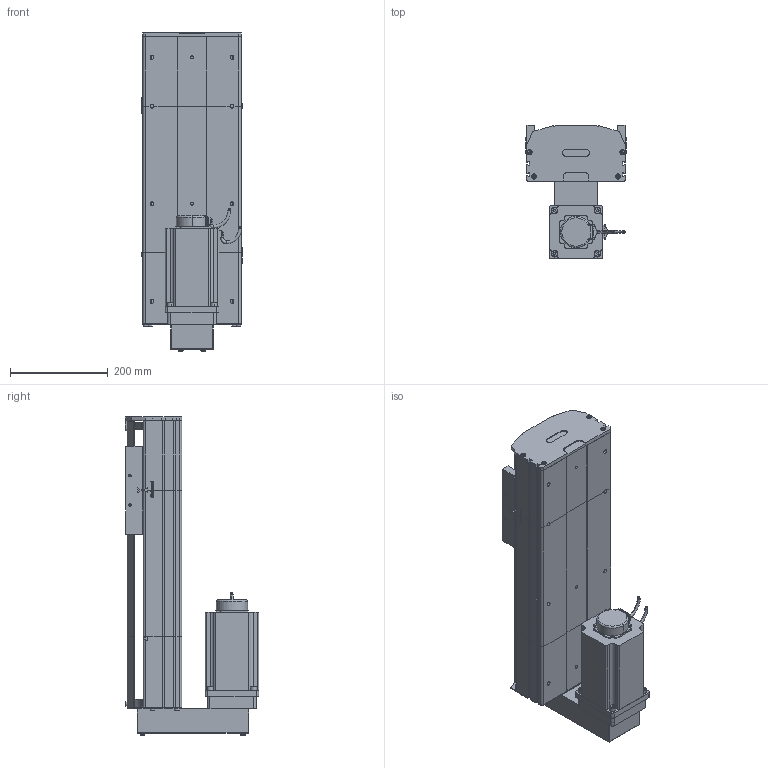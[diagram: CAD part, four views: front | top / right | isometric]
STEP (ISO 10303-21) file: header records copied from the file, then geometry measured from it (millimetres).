
FILE_DESCRIPTION (( 'STEP AP214' ), '1' );
FILE_NAME ('D20 TSH BM S300.STEP', '2010-06-30T08:28:27', ( 'Conseil Régional Haute-Normandie' ), ( 'Conseil Régional Haute-Normandie' ), 'SwSTEP 2.0', 'SolidWorks 2010', '' );
FILE_SCHEMA (( 'AUTOMOTIVE_DESIGN' ));
Length unit declared in the file: millimetre
Products named in the file (35): vis M5 L8 90°_Default; 2 vis M5 L12_Default; vis M5 L25_Default; chariot D20S_Default; vis M5 L12_Default; guide D20; Chariot D20; corp D20 S300_Default; course D20 L300_Default; D20 TSH BM S300; Moteur motionking 110BLDC170A-640x; corpl head MD D20_Default; plaque de  bout head BR D20_Default; head BM D20_Default; Arbre+rail head D20; avant 110BLDC170A-630x; rail + arbre  D20 S300; couvercle head l D20_Default; couvercle D20 S300_Default; Plaque racord D20_Default; vis M8 L12_Default; renvoi  BM_Default; couvercle tail D20_Default; plaque de  bout tail D20_Default; corpl tail D20 +100_Default; tete d''axe bas D20; Conecteur2_Default; tail D20 +100_Default; Arbre+rail tail D20; vis M5 L70_Default; Conecteur_Default; clavette; codeur 110BLDC170A-630x; corps 110BLDC170A-630x; tete d''axe haut D20
Assembly tree (59 placements, depth 4):
  D20 TSH BM S300
    chariot D20S_Default
      vis M5 L12_Default  x4
      Chariot D20
      guide D20  x2
    course D20 L300_Default
      rail + arbre  D20 S300
      corp D20 S300_Default
      couvercle D20 S300_Default
    tail D20 +100_Default
      vis M5 L25_Default  x2
      2 vis M5 L12_Default  x4
      vis M5 L8 90°_Default  x2
      tete d''axe haut D20
      tete d''axe bas D20
      corpl tail D20 +100_Default
      plaque de  bout tail D20_Default
      couvercle tail D20_Default
      Arbre+rail tail D20
    head BM D20_Default
      Moteur motionking 110BLDC170A-640x
        Conecteur_Default
        codeur 110BLDC170A-630x
        Conecteur2_Default
        clavette
        corps 110BLDC170A-630x
        avant 110BLDC170A-630x
      vis M8 L12_Default  x4
      corpl head MD D20_Default
      vis M5 L70_Default  x4
      plaque de  bout head BR D20_Default
      vis M5 L25_Default  x2
      2 vis M5 L12_Default  x6
      vis M5 L12_Default  x2
      Arbre+rail head D20
      couvercle head l D20_Default
      renvoi  BM_Default
      Plaque racord D20_Default
Bounding box: 206 x 273.7 x 651.7 mm (x, y, z)
Volume: 8291299.4 mm3; surface area: 1599312.1 mm2
Topology: 84 solids, 84 shells, 2292 faces, 5711 edges, 3685 vertices
Faces by surface type: plane 1384, cylinder 620, bspline 136, torus 77, cone 71, sphere 4
Entity records: 73632 total; most frequent: CARTESIAN_POINT 23860, ORIENTED_EDGE 8718, DIRECTION 8248, EDGE_CURVE 4359, VECTOR 2914, LINE 2914, VERTEX_POINT 2867, AXIS2_PLACEMENT_3D 2667
